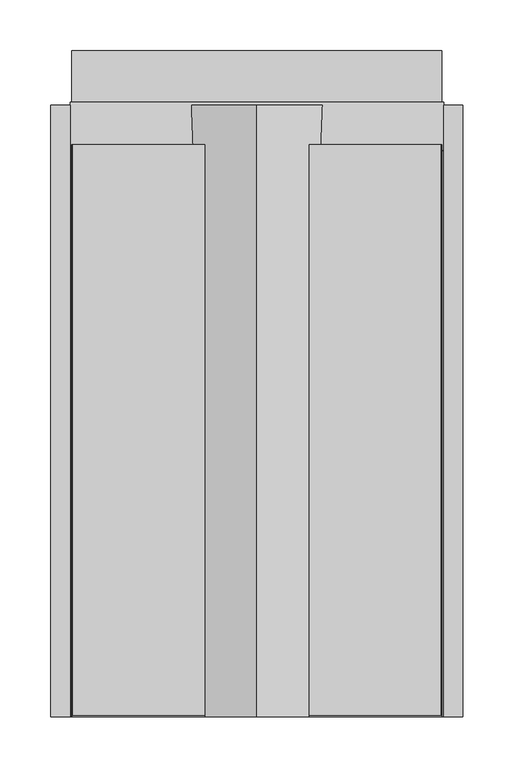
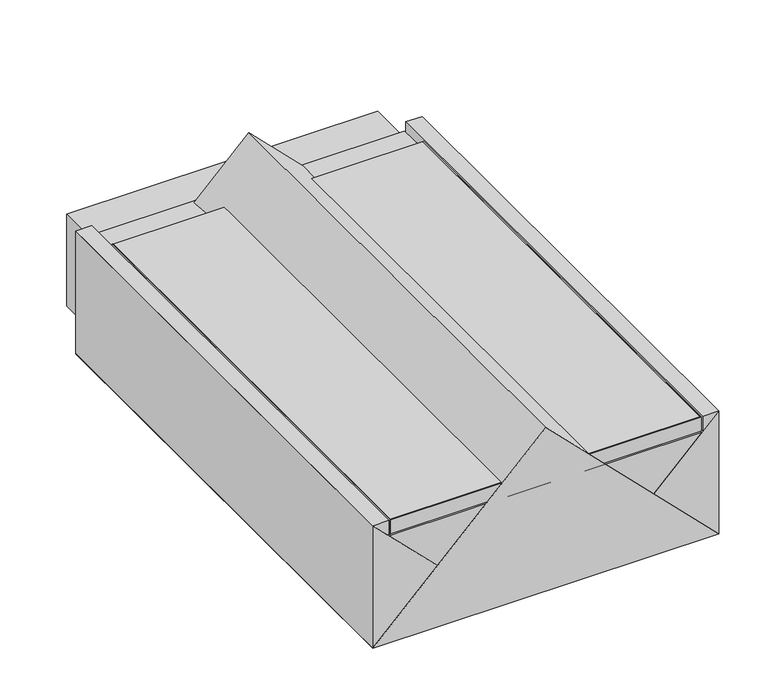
"""IFC4 building model written with IfcOpenShell, lengths in millimetres: proxy geometry, _AMC-614-V-UPRIGHTS-REV2."""

from ifc_helpers import new_model, si_unit, point, frame, frame_2d, origin, origin_with_axes, place, context, project, spatial, polyline, circle_curve, trimmed, segment, composite_curve, outline, extrude, source, transform, mapped, element, save


def generic_models_48fb121b(model_context):
    return source(origin(), model_context, "Body", "SweptSolid", [
        extrude(outline(polyline([(-19.05, 385.7625), (184.15, 182.5625), (-19.05, -20.6375), (-19.05, 385.7625)])), frame((0.0, -5.9132375, 0.0), z_axis=(0.0, 1.0, 0.0), x_axis=(0.0, 0.0, 1.0)), (0.0, 0.0, 1.0), 603.25),
        extrude(outline(polyline([(133.35, -20.6375), (115.8875, -3.175), (115.8875, -1.5875), (133.35, -1.5875), (133.35, -20.6375)])), frame((0.0, -5.9132375, 0.0), z_axis=(0.0, 1.0, 0.0), x_axis=(0.0, 0.0, 1.0)), (0.0, 0.0, 1.0), 603.25),
        extrude(outline(polyline([(-19.05, -20.6375), (57.15, 55.5625), (133.35, -20.6375), (-19.05, -20.6375)])), frame((0.0, -5.9132375, 0.0), z_axis=(0.0, 1.0, 0.0), x_axis=(0.0, 0.0, 1.0)), (0.0, 0.0, 1.0), 603.25),
        extrude(outline(composite_curve([segment(polyline([(600.1835039, 117.6995994), (552.5932816, 119.552014), (552.6803072, 121.7877811), (600.2705295, 119.9353664)]), True, "CONTINUOUS"), segment(trimmed(circle_curve(frame_2d((598.271437, 118.8936024)), 2.25425), [point((600.2705295, 119.9353664))], [point((600.1835039, 117.6995994))], False, "CARTESIAN"), True, "CONTINUOUS")], self_intersect=False)), frame((-1.5875, 0.0, 0.0), z_axis=(1.0, 0.0, 0.0), x_axis=(0.0, 1.0, 0.0)), (0.0, 0.0, 1.0), 368.3),
        extrude(outline(polyline([(0.0, 558.4430125), (0.79375, 558.4430125), (0.79375, -5.1194875), (0.0, -5.1194875), (0.0, 558.4430125)])), frame((0.0, 0.0, 115.8875), z_axis=(0.0, 0.0, 1.0), x_axis=(1.0, 0.0, 0.0)), (0.0, 0.0, 1.0), 17.4625),
        extrude(outline(polyline([(0.0, -5.1194875), (365.125, -5.1194875), (365.125, -5.9132375), (0.0, -5.9132375), (0.0, -5.1194875)])), frame((0.0, 0.0, 115.8875), z_axis=(0.0, 0.0, 1.0), x_axis=(1.0, 0.0, 0.0)), (0.0, 0.0, 1.0), 17.4625),
        extrude(outline(polyline([(364.33125, 558.4430125), (365.125, 558.4430125), (365.125, -5.1194875), (364.33125, -5.1194875), (364.33125, 558.4430125)])), frame((0.0, 0.0, 115.8875), z_axis=(0.0, 0.0, 1.0), x_axis=(1.0, 0.0, 0.0)), (0.0, 0.0, 1.0), 17.4625),
        extrude(outline(polyline([(0.79375, 558.4430125), (364.33125, 558.4430125), (364.33125, -5.1194875), (0.79375, -5.1194875), (0.79375, 558.4430125)])), frame((0.0, 0.0, 115.8875), z_axis=(0.0, 0.0, 1.0), x_axis=(1.0, 0.0, 0.0)), (0.0, 0.0, 1.0), 17.4625),
        extrude(outline(polyline([(115.8875, 368.3), (133.35, 385.7625), (133.35, 366.7125), (115.8875, 366.7125), (115.8875, 368.3)])), frame((0.0, -5.9132375, 0.0), z_axis=(0.0, 1.0, 0.0), x_axis=(0.0, 0.0, 1.0)), (0.0, 0.0, 1.0), 603.25),
        extrude(outline(polyline([(133.35, 385.7625), (57.15, 309.5625), (-19.05, 385.7625), (133.35, 385.7625)])), frame((0.0, -5.9132375, 0.0), z_axis=(0.0, 1.0, 0.0), x_axis=(0.0, 0.0, 1.0)), (0.0, 0.0, 1.0), 603.25),
        extrude(outline(polyline([(0.0, 651.3117625), (365.125, 651.3117625), (365.125, -5.9132375), (0.0, -5.9132375), (0.0, 651.3117625)])), origin_with_axes(), (0.0, 0.0, 1.0), 114.3),
    ])


if __name__ == "__main__":
    model = new_model("IFC4")
    model_context = context("Model", 3, world=origin())
    ifc_project = project(units=[si_unit("LENGTHUNIT", "METRE", prefix="MILLI")], contexts=[model_context])
    site = spatial("IfcSite", under=ifc_project)
    building = spatial("IfcBuilding", under=site)
    placement = place(None, origin())
    generic_models_shape = generic_models_48fb121b(model_context)
    element("IfcBuildingElementProxy", 1, Name="_AMC-614-V-UPRIGHTS-REV2", ObjectType="_AMC-614-V-UPRIGHTS-REV2", at=placement, inside=building, context=model_context, shape_type="MappedRepresentation", body=[
        mapped(generic_models_shape, transform((0.0, 0.0, 0.0), x_axis=(1.0, 0.0, 0.0), y_axis=(0.0, 1.0, 0.0), z_axis=(0.0, 0.0, 1.0))),
    ])
    save(model, "model.ifc")
